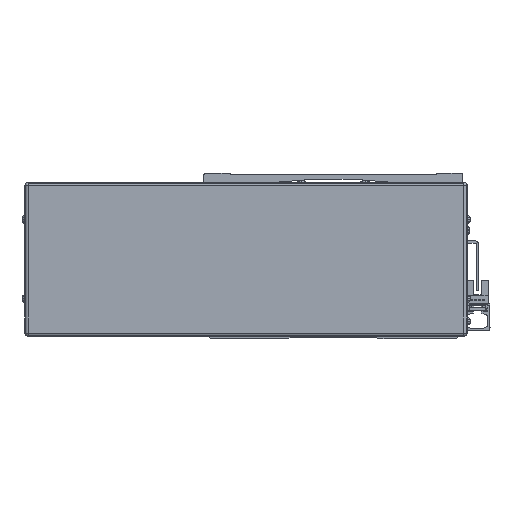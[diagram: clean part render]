
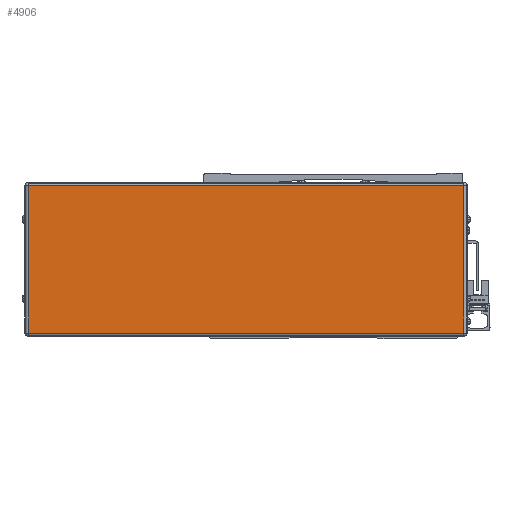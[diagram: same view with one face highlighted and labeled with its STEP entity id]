
A CAD part, front view. The second image highlights one B-rep face of the part: STEP entity #4906.
In plain terms, the highlighted planar face has unit normal (0, -1, 0).
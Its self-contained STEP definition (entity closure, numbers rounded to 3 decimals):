
#4906=ADVANCED_FACE('',(#11040),#11041,.F.);
#11040=FACE_OUTER_BOUND('',#19656,.T.);
#11041=PLANE('',#19657);
#19656=EDGE_LOOP('',(#34942,#34943,#34944,#34945));
#19657=AXIS2_PLACEMENT_3D('',#34946,#34947,#34948);
#34942=ORIENTED_EDGE('',*,*,#52589,.T.);
#34943=ORIENTED_EDGE('',*,*,#52590,.T.);
#34944=ORIENTED_EDGE('',*,*,#52591,.T.);
#34945=ORIENTED_EDGE('',*,*,#49738,.T.);
#34946=CARTESIAN_POINT('',(-655.,227.222,-2.));
#34947=DIRECTION('',(0.,1.0,0.));
#34948=DIRECTION('',(-1.0,0.,0.));
#49738=EDGE_CURVE('',#59053,#60308,#60310,.T.);
#52589=EDGE_CURVE('',#60308,#59720,#64716,.T.);
#52590=EDGE_CURVE('',#59720,#64717,#64718,.T.);
#52591=EDGE_CURVE('',#64717,#59053,#64719,.T.);
#59053=VERTEX_POINT('',#73356);
#59720=VERTEX_POINT('',#74294);
#60308=VERTEX_POINT('',#75131);
#60310=LINE('',#75133,#75134);
#64716=LINE('',#81581,#81582);
#64717=VERTEX_POINT('',#81583);
#64718=LINE('',#81584,#81585);
#64719=LINE('',#81586,#81587);
#73356=CARTESIAN_POINT('',(-517.9,227.222,-48.5));
#74294=CARTESIAN_POINT('',(-792.1,227.222,44.5));
#75131=CARTESIAN_POINT('',(-517.9,227.222,44.5));
#75133=CARTESIAN_POINT('',(-517.9,227.222,-2.));
#75134=VECTOR('',#90536,10.0);
#81581=CARTESIAN_POINT('',(-655.,227.222,44.5));
#81582=VECTOR('',#93987,10.0);
#81583=CARTESIAN_POINT('',(-792.1,227.222,-48.5));
#81584=CARTESIAN_POINT('',(-792.1,227.222,-2.));
#81585=VECTOR('',#93988,10.0);
#81586=CARTESIAN_POINT('',(-655.,227.222,-48.5));
#81587=VECTOR('',#93989,10.0);
#90536=DIRECTION('',(0.,0.,1.0));
#93987=DIRECTION('',(-1.0,0.,0.));
#93988=DIRECTION('',(0.,0.,-1.0));
#93989=DIRECTION('',(1.0,0.,0.));
